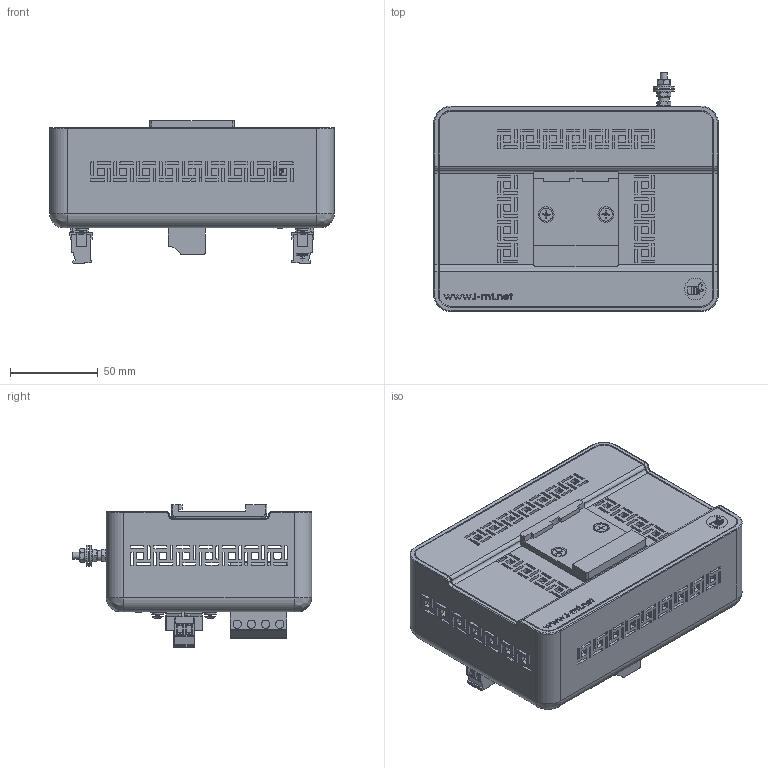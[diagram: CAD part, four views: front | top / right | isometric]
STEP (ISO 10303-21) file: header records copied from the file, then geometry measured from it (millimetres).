
FILE_DESCRIPTION(/* description */ (''),/* implementation_level */ '2;1');
FILE_NAME(/* name */ 'D:\WorkIMT\Project IMT\Пион-Т\!MT.PION-T.04\3D на сайт\PION-T 3D.stp',/* time_stamp */ '2024-01-10T11:22:17+03:00',/* author */ ('Admin'),/* organization */ (''),/* preprocessor_version */ 'ST-DEVELOPER v17.2',/* originating_system */ 'Autodesk Inventor 2019',/* authorisation */ '');
FILE_SCHEMA (('AUTOMOTIVE_DESIGN { 1 0 10303 214 3 1 1 }'));
Products named in the file (1): PION-T 3D
Bounding box: 162 x 136.3 x 81.2 mm (x, y, z)
Volume: 211991.6 mm3; surface area: 161033.1 mm2
Topology: 4 solids, 14 shells, 4463 faces, 12539 edges, 8252 vertices
Faces by surface type: plane 2847, cylinder 1166, bspline 226, cone 136, torus 73, sphere 15
Full cylindrical faces by diameter (mm): 1.4 x4, 1.8 x4, 2.4 x4, 2.5 x9, 2.75 x4, 2.8 x5, 3 x13, 3.2 x9, 3.5 x4, 3.85 x8, 4 x5, 4.2 x2, 4.3 x2, 4.5 x3, 4.7 x8, 5.9 x1, 7 x4, 7.4 x2, 9 x2, 12 x2, 12.26 x1
Entity records: 151293 total; most frequent: CARTESIAN_POINT 30411, ORIENTED_EDGE 25062, DIRECTION 23181, EDGE_CURVE 12531, LINE 8853, VECTOR 8853, VERTEX_POINT 8252, AXIS2_PLACEMENT_3D 7164
